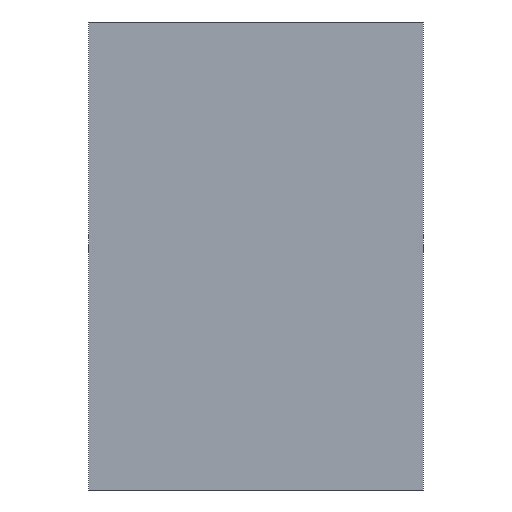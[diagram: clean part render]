
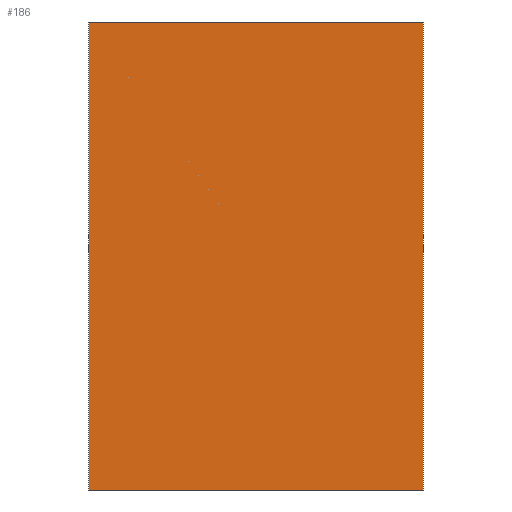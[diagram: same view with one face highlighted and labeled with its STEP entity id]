
A CAD part, front view. The second image highlights one B-rep face of the part: STEP entity #186.
In plain terms, the highlighted planar face has unit normal (0, -1, 0).
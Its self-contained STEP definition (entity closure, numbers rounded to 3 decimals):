
#186=ADVANCED_FACE('',(#394),#395,.T.);
#394=FACE_OUTER_BOUND('',#613,.T.);
#395=PLANE('',#614);
#613=EDGE_LOOP('',(#1117,#1118,#1119,#1120));
#614=AXIS2_PLACEMENT_3D('',#1121,#1122,#1123);
#1117=ORIENTED_EDGE('',*,*,#1481,.T.);
#1118=ORIENTED_EDGE('',*,*,#1478,.T.);
#1119=ORIENTED_EDGE('',*,*,#1475,.T.);
#1120=ORIENTED_EDGE('',*,*,#1472,.T.);
#1121=CARTESIAN_POINT('',(1.5,-1.5,21.0));
#1122=DIRECTION('',(0.,-1.0,0.0));
#1123=DIRECTION('',(0.0,0.0,1.0));
#1472=EDGE_CURVE('',#1809,#1807,#1810,.T.);
#1475=EDGE_CURVE('',#1813,#1809,#1814,.T.);
#1478=EDGE_CURVE('',#1817,#1813,#1818,.T.);
#1481=EDGE_CURVE('',#1807,#1817,#1821,.T.);
#1807=VERTEX_POINT('',#2256);
#1809=VERTEX_POINT('',#2259);
#1810=LINE('',#2260,#2261);
#1813=VERTEX_POINT('',#2265);
#1814=LINE('',#2266,#2267);
#1817=VERTEX_POINT('',#2271);
#1818=LINE('',#2272,#2273);
#1821=LINE('',#2277,#2278);
#2256=CARTESIAN_POINT('',(16.5,-1.5,42.0));
#2259=CARTESIAN_POINT('',(16.5,-1.5,0.0));
#2260=CARTESIAN_POINT('',(16.5,-1.5,42.0));
#2261=VECTOR('',#2588,1.0);
#2265=CARTESIAN_POINT('',(-13.5,-1.5,0.0));
#2266=CARTESIAN_POINT('',(16.5,-1.5,0.0));
#2267=VECTOR('',#2590,1.0);
#2271=CARTESIAN_POINT('',(-13.5,-1.5,42.0));
#2272=CARTESIAN_POINT('',(-13.5,-1.5,0.0));
#2273=VECTOR('',#2592,1.0);
#2277=CARTESIAN_POINT('',(-13.5,-1.5,42.0));
#2278=VECTOR('',#2594,1.0);
#2588=DIRECTION('',(0.0,0.0,1.0));
#2590=DIRECTION('',(1.0,0.,0.0));
#2592=DIRECTION('',(-0.0,0.0,-1.0));
#2594=DIRECTION('',(-1.0,0.,0.0));
